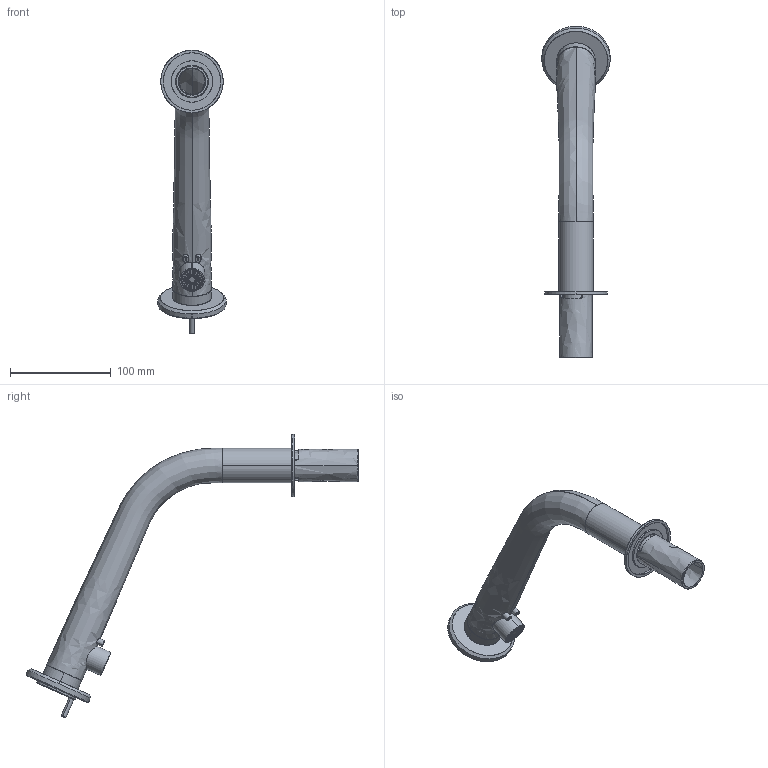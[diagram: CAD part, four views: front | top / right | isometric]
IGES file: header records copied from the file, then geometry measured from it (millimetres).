
Start section: SolidWorks IGES file using analytic representation for surfaces
Global section: file name: \\miscea-nas\FinalProductFiles\Technische Zeichnungen (MKTG)\_Hilfsdateien\KITCHEN\KITCHEN.IGS; native system: SolidWorks 2012; preprocessor: SolidWorks 2012; author: Michael; date: 160108.143154; units: millimetre
Bounding box: 68 x 329.77 x 281.46 mm (x, y, z)
Surface area: 78081.2 mm2 (no closed solid volume)
Topology: 0 solids, 0 shells, 315 faces, 5051 edges, 4991 vertices
Faces by surface type: revolution 250, bspline 65
